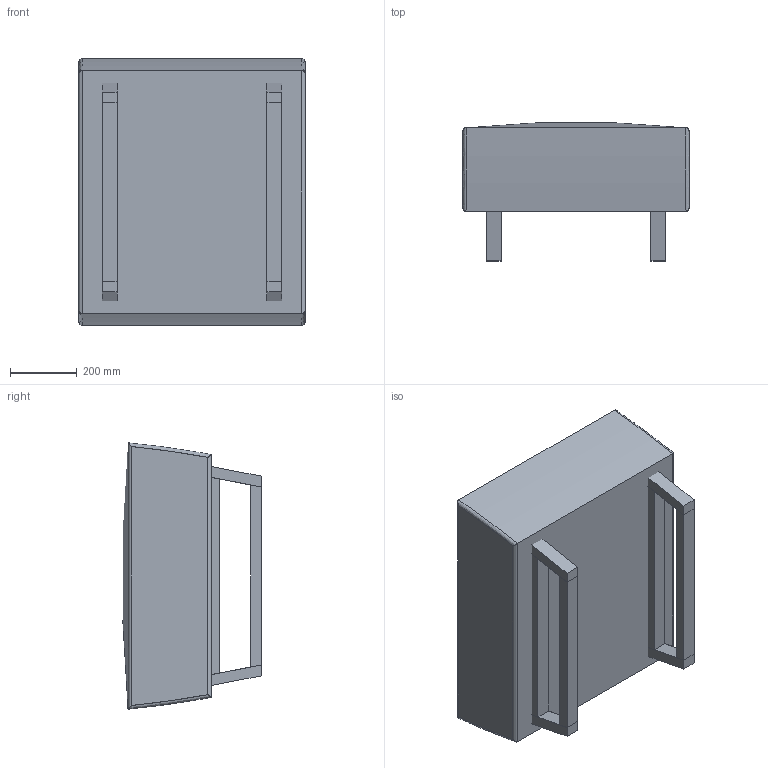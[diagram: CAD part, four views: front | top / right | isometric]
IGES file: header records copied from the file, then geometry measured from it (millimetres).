
Start section: SolidWorks IGES file using analytic representation for surfaces
Global section: file name: P:\3D CAD BLOCKS\us\SINGLE SEAT\us - SINGLE SEAT.IGS; native system: SolidWorks 2012; preprocessor: SolidWorks 2012; author: adam; date: 140220.190103; units: millimetre
Bounding box: 680 x 415.8 x 800 mm (x, y, z)
Surface area: 2671391.1 mm2 (no closed solid volume)
Topology: 0 solids, 0 shells, 118 faces, 928 edges, 928 vertices
Faces by surface type: bspline 96, revolution 22
